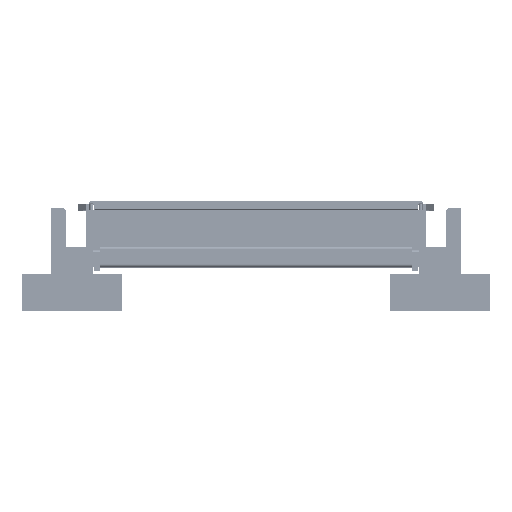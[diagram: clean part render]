
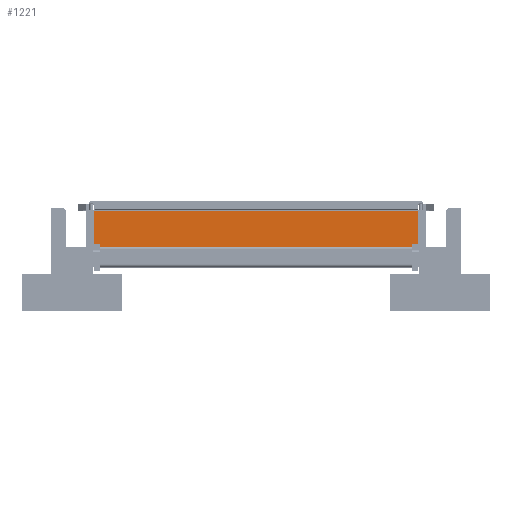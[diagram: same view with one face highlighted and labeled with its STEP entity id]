
A CAD part, top view. The second image highlights one B-rep face of the part: STEP entity #1221.
In plain terms, the highlighted planar face has unit normal (0, 0, 1).
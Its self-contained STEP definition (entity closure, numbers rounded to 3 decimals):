
#1221 = ADVANCED_FACE ( 'NONE', ( #23648 ), #44782, .F. ) ;
#3554 = ORIENTED_EDGE ( 'NONE', *, *, #41502, .F. ) ;
#3560 = ORIENTED_EDGE ( 'NONE', *, *, #41501, .F. ) ;
#3562 = ORIENTED_EDGE ( 'NONE', *, *, #41500, .F. ) ;
#3566 = ORIENTED_EDGE ( 'NONE', *, *, #41499, .F. ) ;
#5657 = LINE ( 'NONE', #45662, #5658 ) ;
#5658 = VECTOR ( 'NONE', #45663, 1000. ) ;
#5659 = LINE ( 'NONE', #45664, #5660 ) ;
#5660 = VECTOR ( 'NONE', #45665, 1000. ) ;
#5661 = LINE ( 'NONE', #45666, #5662 ) ;
#5662 = VECTOR ( 'NONE', #45667, 1000. ) ;
#5663 = LINE ( 'NONE', #45668, #5664 ) ;
#5664 = VECTOR ( 'NONE', #45669, 1000. ) ;
#7325 = AXIS2_PLACEMENT_3D ( 'NONE', #44784, #44786, #44787 ) ;
#11106 = VERTEX_POINT ( 'NONE', #33655 ) ;
#11241 = VERTEX_POINT ( 'NONE', #33790 ) ;
#11295 = VERTEX_POINT ( 'NONE', #33860 ) ;
#11296 = VERTEX_POINT ( 'NONE', #33862 ) ;
#23648 = FACE_OUTER_BOUND ( 'NONE', #30695, .T. ) ;
#30695 = EDGE_LOOP ( 'NONE', ( #3566, #3562, #3560, #3554 ) ) ;
#33655 = CARTESIAN_POINT ( 'NONE',  ( 1296., 221., 2. ) ) ;
#33790 = CARTESIAN_POINT ( 'NONE',  ( 4., 221., 2. ) ) ;
#33860 = CARTESIAN_POINT ( 'NONE',  ( 1296., 4., 2. ) ) ;
#33862 = CARTESIAN_POINT ( 'NONE',  ( 4., 4., 2. ) ) ;
#41499 = EDGE_CURVE ( 'NONE', #11295, #11296, #5657, .T. ) ;
#41500 = EDGE_CURVE ( 'NONE', #11106, #11295, #5659, .T. ) ;
#41501 = EDGE_CURVE ( 'NONE', #11241, #11106, #5661, .T. ) ;
#41502 = EDGE_CURVE ( 'NONE', #11296, #11241, #5663, .T. ) ;
#44782 = PLANE ( 'NONE',  #7325 ) ;
#44784 = CARTESIAN_POINT ( 'NONE',  ( 0., 225., 2. ) ) ;
#44786 = DIRECTION ( 'NONE',  ( 0., 0., -1. ) ) ;
#44787 = DIRECTION ( 'NONE',  ( -1., 0., 0. ) ) ;
#45662 = CARTESIAN_POINT ( 'NONE',  ( 1297.293, 4., 2. ) ) ;
#45663 = DIRECTION ( 'NONE',  ( -1., 0., 0. ) ) ;
#45664 = CARTESIAN_POINT ( 'NONE',  ( 1296., 222.293, 2. ) ) ;
#45665 = DIRECTION ( 'NONE',  ( 0., -1., 0. ) ) ;
#45666 = CARTESIAN_POINT ( 'NONE',  ( 2.707, 221., 2. ) ) ;
#45667 = DIRECTION ( 'NONE',  ( 1., 0., 0. ) ) ;
#45668 = CARTESIAN_POINT ( 'NONE',  ( 4., 2.707, 2. ) ) ;
#45669 = DIRECTION ( 'NONE',  ( 0., 1., 0. ) ) ;
